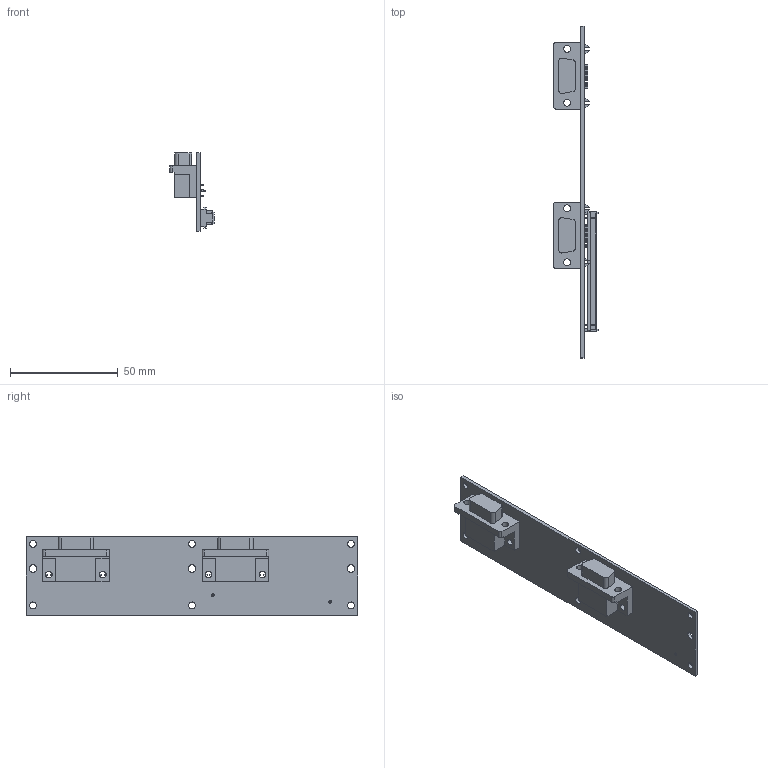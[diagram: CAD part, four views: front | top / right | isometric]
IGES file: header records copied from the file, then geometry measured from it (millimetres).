
Start section:  PTC IGES file: cu_ni-9693.igs
Global section: file name: cu_ni-9693.igs; native system: Pro/ENGINEER by Parametric Technology Corporation; preprocessor: 2011490; author: jbuhisan; organization: Unknown; date: 20121203.090727; units: inch
Bounding box: 20.73 x 153.67 x 36.2 mm (x, y, z)
Surface area: 17360.2 mm2 (no closed solid volume)
Topology: 0 solids, 0 shells, 799 faces, 4108 edges, 4106 vertices
Faces by surface type: bspline 611, revolution 188
